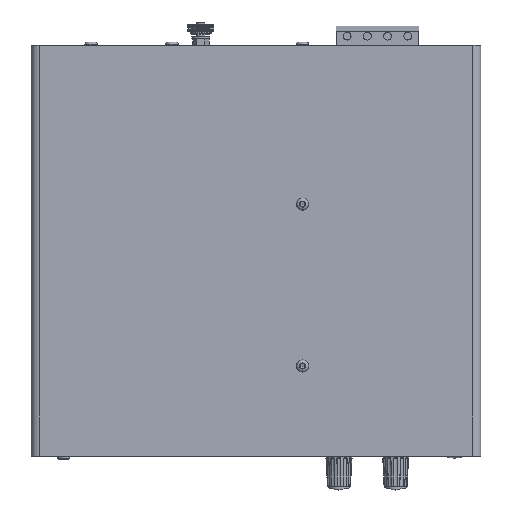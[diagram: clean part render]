
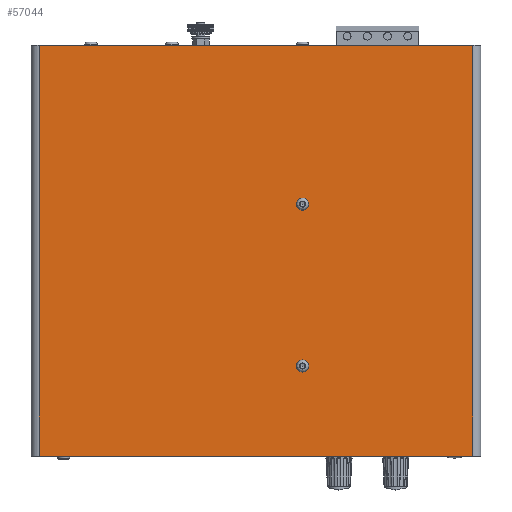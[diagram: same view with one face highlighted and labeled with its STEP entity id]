
A CAD part, top view. The second image highlights one B-rep face of the part: STEP entity #57044.
In plain terms, the highlighted planar face has unit normal (0, 0, 1).
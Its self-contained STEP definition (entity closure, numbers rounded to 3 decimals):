
#2511=FACE_BOUND('',#10523,.T.);
#2512=FACE_BOUND('',#10524,.T.);
#4247=PLANE('',#61713);
#6900=FACE_OUTER_BOUND('',#10522,.T.);
#10522=EDGE_LOOP('',(#46339,#46340,#46341,#46342));
#10523=EDGE_LOOP('',(#46343));
#10524=EDGE_LOOP('',(#46344));
#14880=LINE('',#98546,#19040);
#14883=LINE('',#98556,#19043);
#14886=LINE('',#98565,#19046);
#14888=LINE('',#98569,#19048);
#19040=VECTOR('',#73761,10.);
#19043=VECTOR('',#73772,10.);
#19046=VECTOR('',#73783,10.);
#19048=VECTOR('',#73789,10.);
#21675=CIRCLE('',#61714,3.);
#21676=CIRCLE('',#61715,3.);
#26430=VERTEX_POINT('',#98543);
#26431=VERTEX_POINT('',#98545);
#26434=VERTEX_POINT('',#98555);
#26436=VERTEX_POINT('',#98563);
#26437=VERTEX_POINT('',#98570);
#26438=VERTEX_POINT('',#98572);
#33339=EDGE_CURVE('',#26430,#26431,#14880,.T.);
#33344=EDGE_CURVE('',#26434,#26431,#14883,.T.);
#33349=EDGE_CURVE('',#26430,#26436,#14886,.T.);
#33351=EDGE_CURVE('',#26434,#26436,#14888,.T.);
#33352=EDGE_CURVE('',#26437,#26437,#21675,.T.);
#33353=EDGE_CURVE('',#26438,#26438,#21676,.T.);
#46339=ORIENTED_EDGE('',*,*,#33349,.T.);
#46340=ORIENTED_EDGE('',*,*,#33351,.F.);
#46341=ORIENTED_EDGE('',*,*,#33344,.T.);
#46342=ORIENTED_EDGE('',*,*,#33339,.F.);
#46343=ORIENTED_EDGE('',*,*,#33352,.T.);
#46344=ORIENTED_EDGE('',*,*,#33353,.T.);
#57044=ADVANCED_FACE('',(#6900,#2511,#2512),#4247,.T.);
#61713=AXIS2_PLACEMENT_3D('',#98568,#73787,#73788);
#61714=AXIS2_PLACEMENT_3D('',#98571,#73790,#73791);
#61715=AXIS2_PLACEMENT_3D('',#98573,#73792,#73793);
#73761=DIRECTION('',(-1.,0.,0.));
#73772=DIRECTION('',(0.,-1.,0.));
#73783=DIRECTION('',(0.,1.,0.));
#73787=DIRECTION('center_axis',(0.,0.,
1.));
#73788=DIRECTION('ref_axis',(1.,0.,0.));
#73789=DIRECTION('',(1.,0.,0.));
#73790=DIRECTION('center_axis',(0.,0.,
-1.));
#73791=DIRECTION('ref_axis',(-1.,0.,0.));
#73792=DIRECTION('center_axis',(0.,0.,
-1.));
#73793=DIRECTION('ref_axis',(-1.,0.,0.));
#98543=CARTESIAN_POINT('',(107.,-101.5,52.));
#98545=CARTESIAN_POINT('',(-107.,-101.5,52.));
#98546=CARTESIAN_POINT('',(111.,-101.5,52.));
#98555=CARTESIAN_POINT('',(-107.,101.5,52.));
#98556=CARTESIAN_POINT('',(-107.,50.75,52.));
#98563=CARTESIAN_POINT('',(107.,101.5,52.));
#98565=CARTESIAN_POINT('',(107.,-50.75,52.));
#98568=CARTESIAN_POINT('Origin',(0.,0.,
52.));
#98569=CARTESIAN_POINT('',(-111.,101.5,52.));
#98570=CARTESIAN_POINT('',(26.,23.,52.));
#98571=CARTESIAN_POINT('Origin',(23.,23.,52.));
#98572=CARTESIAN_POINT('',(26.,-57.,52.));
#98573=CARTESIAN_POINT('Origin',(23.,-57.,52.));
